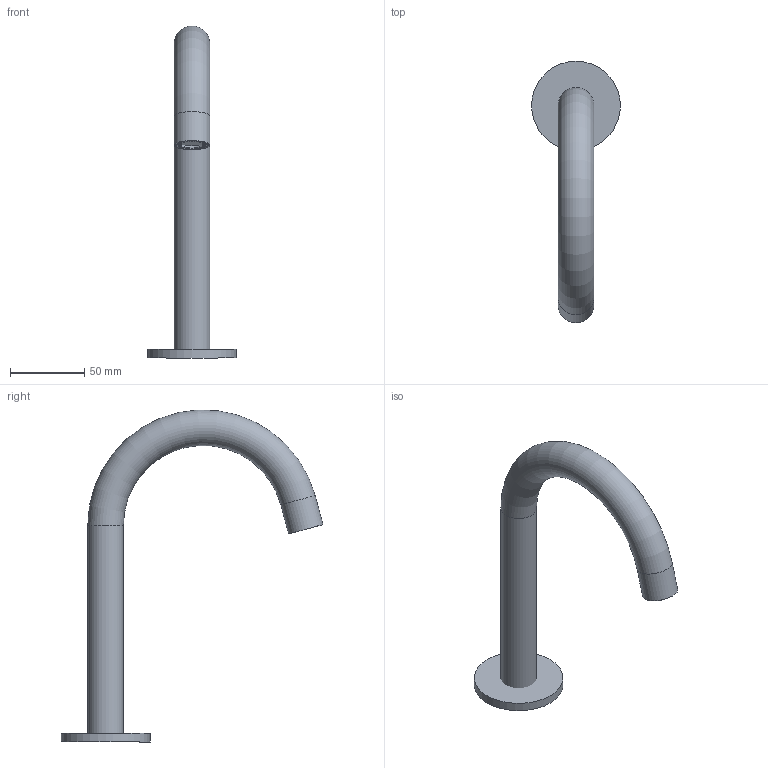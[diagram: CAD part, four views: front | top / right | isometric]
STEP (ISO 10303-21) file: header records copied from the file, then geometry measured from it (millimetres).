
FILE_DESCRIPTION(/* description */ (''),/* implementation_level */ '2;1');
FILE_NAME(/* name */ '3D_TVW106120153_Dawn.step',/* time_stamp */ '2023-01-16T13:45:20+01:00',/* author */ (''),/* organization */ (''),/* preprocessor_version */ 'ST-DEVELOPER v19.2',/* originating_system */ 'Autodesk Translation Framework v11.17.0.187',/* authorisation */ '');
FILE_SCHEMA (('AUTOMOTIVE_DESIGN { 1 0 10303 214 3 1 1 }'));
Length unit declared in the file: millimetre
Products named in the file (7): (Nicht gespeichert); 17000104_ASM; 02000422; 16002474_ASM; 11000102_ASM; 11000102_A; 12000868
Assembly tree (6 placements, depth 5):
  (Nicht gespeichert)
    17000104_ASM
      02000422
      16002474_ASM
        11000102_ASM
          11000102_A
    12000868
Bounding box: 60 x 176.59 x 223.92 mm (x, y, z)
Volume: 57393.4 mm3; surface area: 58408.2 mm2
Topology: 3 solids, 3 shells, 222 faces, 477 edges, 264 vertices
Faces by surface type: cylinder 75, plane 41, bspline 38, torus 35, sphere 29, cone 4
Full cylindrical faces by diameter (mm): 15.2 x1, 17.2 x1, 17.7 x1, 19.3 x1, 21 x2, 21.5 x2, 21.75 x1, 24 x2, 60 x1
Entity records: 15127 total; most frequent: CARTESIAN_POINT 10279, DIRECTION 1062, ORIENTED_EDGE 954, EDGE_CURVE 477, AXIS2_PLACEMENT_3D 460, VERTEX_POINT 264, CIRCLE 259, EDGE_LOOP 227
